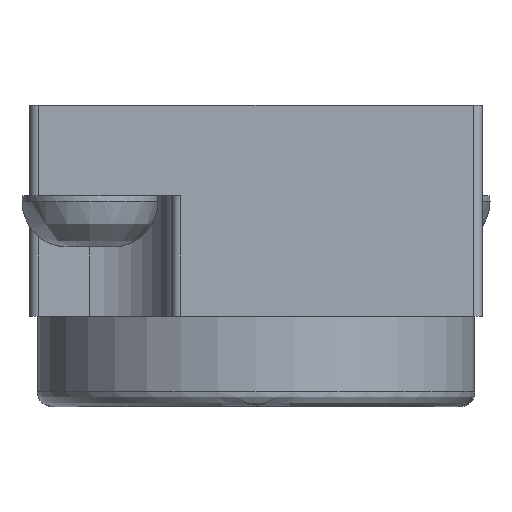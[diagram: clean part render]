
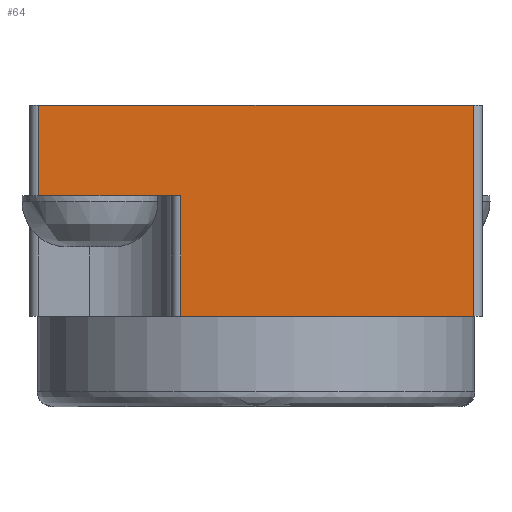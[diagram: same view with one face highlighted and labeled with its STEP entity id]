
A CAD part, front view. The second image highlights one B-rep face of the part: STEP entity #64.
In plain terms, the highlighted planar face has unit normal (0, -1, 0).
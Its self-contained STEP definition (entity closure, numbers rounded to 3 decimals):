
#64=ADVANCED_FACE('',(#355),#354,.T.);
#354=PLANE('',#945);
#355=FACE_OUTER_BOUND('',#946,.T.);
#942=CARTESIAN_POINT('',(-16.14,0.,0.7));
#943=DIRECTION('',(0.,-1.,0.));
#944=DIRECTION('',(0.,0.,-1.));
#945=AXIS2_PLACEMENT_3D('',#942,#943,#944);
#946=EDGE_LOOP('',(#1534,#1535,#1536,#1537,#1538,#1539));
#1534=ORIENTED_EDGE('',*,*,#1819,.F.);
#1535=ORIENTED_EDGE('',*,*,#1806,.F.);
#1536=ORIENTED_EDGE('',*,*,#1761,.T.);
#1537=ORIENTED_EDGE('',*,*,#1837,.T.);
#1538=ORIENTED_EDGE('',*,*,#1838,.F.);
#1539=ORIENTED_EDGE('',*,*,#1839,.F.);
#1761=EDGE_CURVE('',#2040,#2033,#2041,.T.);
#1806=EDGE_CURVE('',#2040,#2333,#2347,.T.);
#1819=EDGE_CURVE('',#2333,#2433,#2434,.T.);
#1837=EDGE_CURVE('',#2033,#2543,#2550,.T.);
#1838=EDGE_CURVE('',#2556,#2543,#2557,.T.);
#1839=EDGE_CURVE('',#2433,#2556,#2563,.T.);
#2033=VERTEX_POINT('',#3163);
#2040=VERTEX_POINT('',#3168);
#2041=LINE('',#3169,#3170);
#2333=VERTEX_POINT('',#3354);
#2347=LINE('',#3363,#3364);
#2433=VERTEX_POINT('',#3414);
#2434=LINE('',#3415,#3416);
#2543=VERTEX_POINT('',#3477);
#2550=LINE('',#3482,#3483);
#2556=VERTEX_POINT('',#3485);
#2557=LINE('',#3486,#3487);
#2563=LINE('',#3489,#3490);
#3163=CARTESIAN_POINT('',(-0.3,0.,-7.));
#3168=CARTESIAN_POINT('',(-10.,0.,-7.));
#3169=CARTESIAN_POINT('',(-10.,0.,-7.));
#3170=VECTOR('',#3171,9.7);
#3171=DIRECTION('',(1.,0.,0.));
#3354=CARTESIAN_POINT('',(-10.,0.,-3.));
#3363=CARTESIAN_POINT('',(-10.,0.,-7.));
#3364=VECTOR('',#3365,4.);
#3365=DIRECTION('',(0.,0.,1.));
#3414=CARTESIAN_POINT('',(-14.7,0.,-3.));
#3415=CARTESIAN_POINT('',(-10.,0.,-3.));
#3416=VECTOR('',#3417,4.7);
#3417=DIRECTION('',(-1.,0.,0.));
#3477=CARTESIAN_POINT('',(-0.3,0.,0.));
#3482=CARTESIAN_POINT('',(-0.3,0.,-7.));
#3483=VECTOR('',#3484,7.);
#3484=DIRECTION('',(0.,0.,1.));
#3485=CARTESIAN_POINT('',(-14.7,0.,0.));
#3486=CARTESIAN_POINT('',(-14.7,0.,0.));
#3487=VECTOR('',#3488,14.4);
#3488=DIRECTION('',(1.,0.,0.));
#3489=CARTESIAN_POINT('',(-14.7,0.,-3.));
#3490=VECTOR('',#3491,3.);
#3491=DIRECTION('',(0.,0.,1.));
